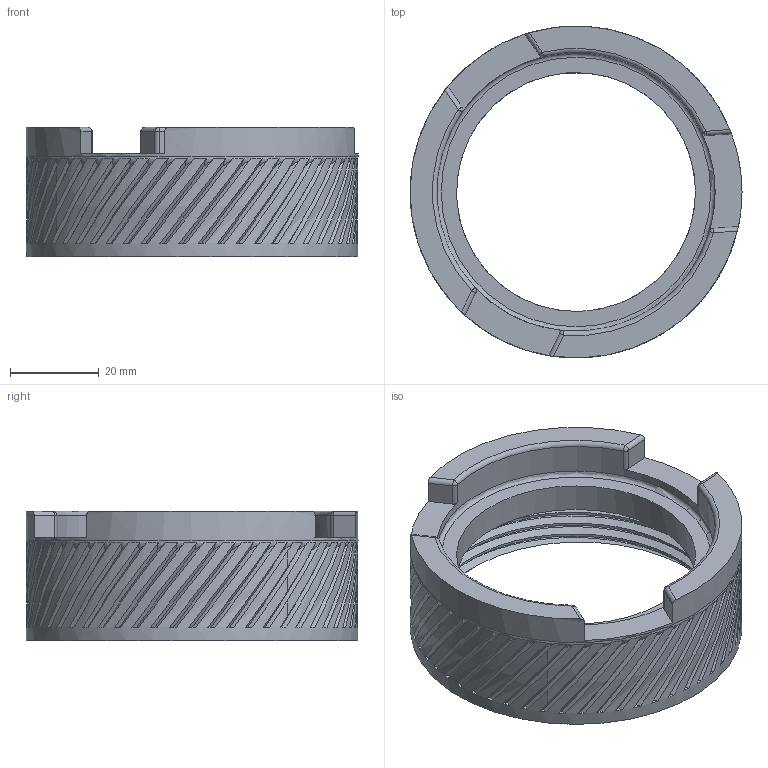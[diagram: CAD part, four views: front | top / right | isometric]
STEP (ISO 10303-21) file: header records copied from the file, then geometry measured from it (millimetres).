
FILE_DESCRIPTION(/* description */ ('STEP AP242','CAx-IF Rec.Pracs.---Representation and Presentation of Product Manufacturing Information (PMI)---4.0---2014-10-13','CAx-IF Rec.Pracs.---3D Tessellated Geometry---0.4---2014-09-14','2;1'),/* implementation_level */ '2;1');
FILE_NAME(/* name */ '6465bb5b7c5e517f9e04ef0a',/* time_stamp */ '2023-05-18T05:45:00Z',/* author */ (''),/* organization */ (''),/* preprocessor_version */ 'ST-DEVELOPER v19.4',/* originating_system */ ' ',/* authorisation */ ' ');
FILE_SCHEMA (('AP242_MANAGED_MODEL_BASED_3D_ENGINEERING_MIM_LF { 1 0 10303 442 1 1 4 }'));
Length unit declared in the file: metre
Products named in the file (1): Base 24mm NoMagnet Lug
Bounding box: 75 x 75 x 29.2 mm (x, y, z)
Volume: 35820.7 mm3; surface area: 17879.6 mm2
Topology: 1 solids, 1 shells, 257 faces, 746 edges, 488 vertices
Faces by surface type: bspline 132, plane 90, cylinder 20, sphere 6, torus 5, cone 4
Full cylindrical faces by diameter (mm): 54 x1, 62.9 x1, 74.9 x1, 75 x1
Entity records: 14827 total; most frequent: CARTESIAN_POINT 9692, ORIENTED_EDGE 1434, EDGE_CURVE 717, DIRECTION 638, VERTEX_POINT 475, B_SPLINE_CURVE_WITH_KNOTS 320, AXIS2_PLACEMENT_3D 280, EDGE_LOOP 266
